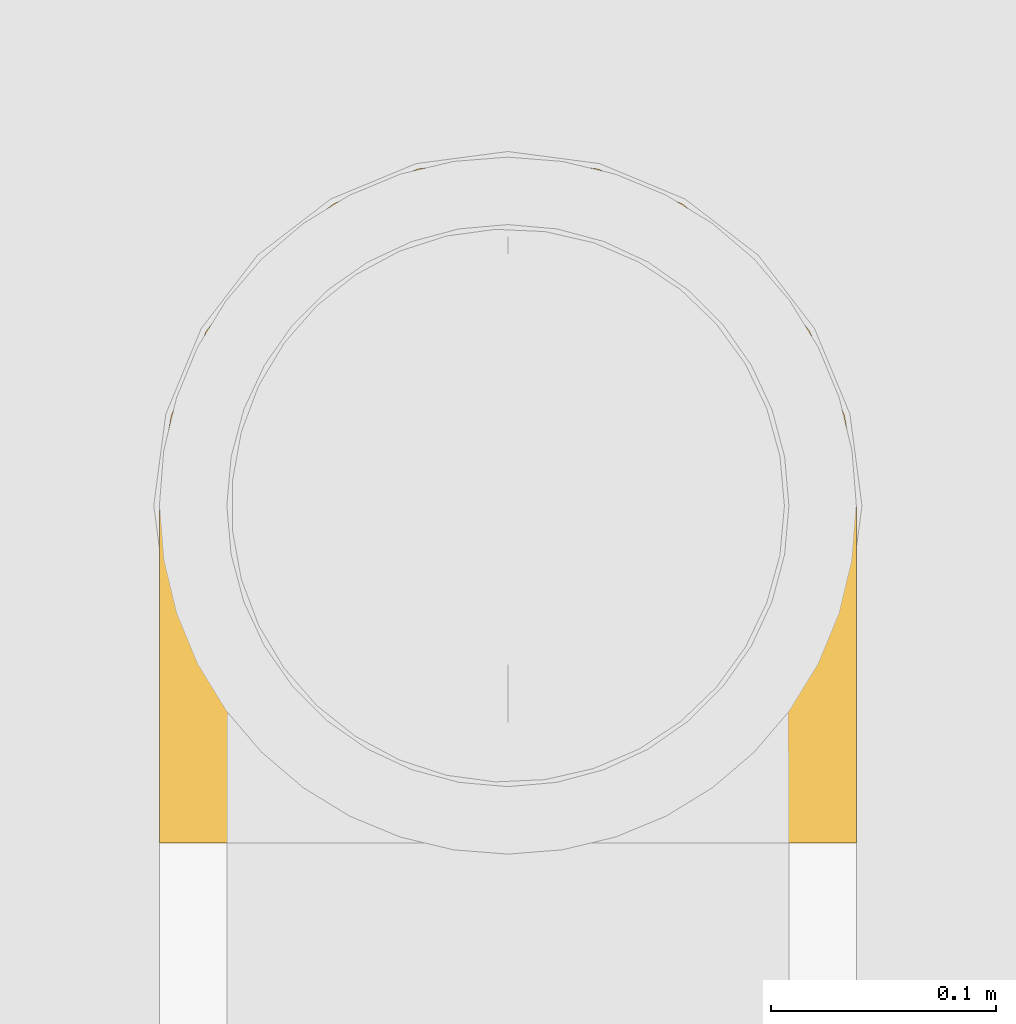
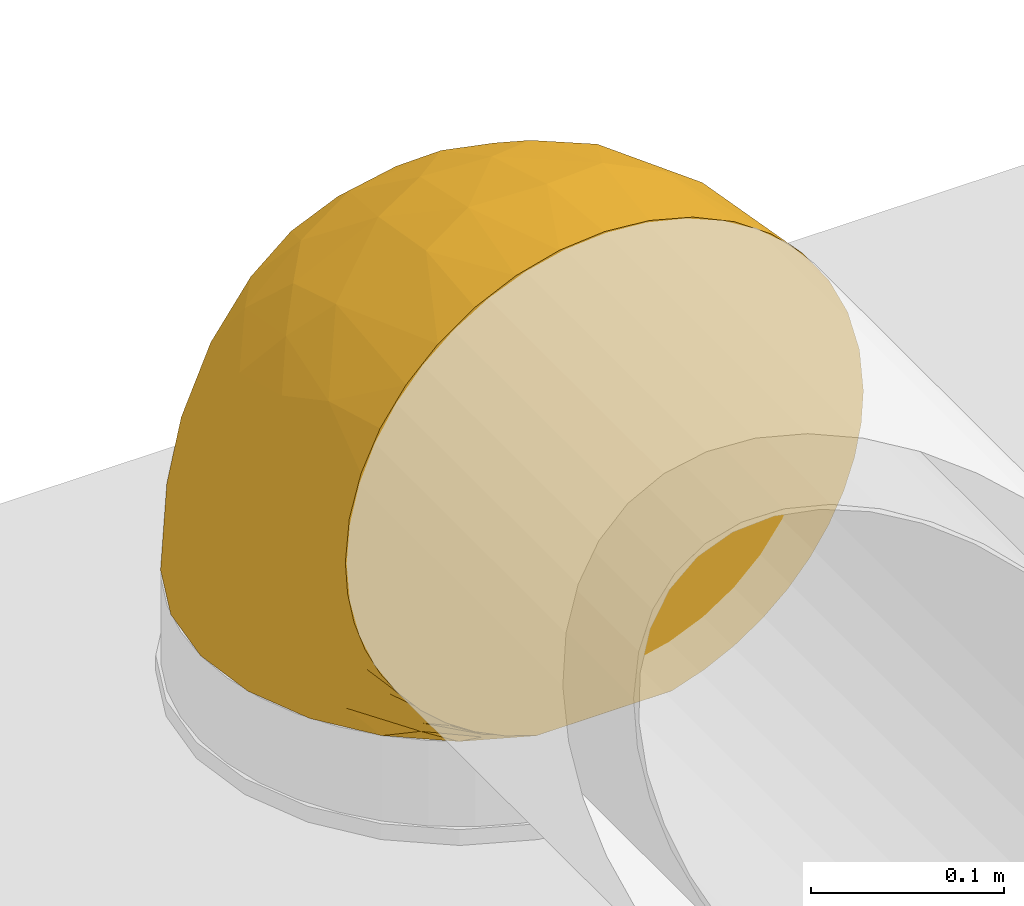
# One storey, part 2 of 36: 1 covering.
"""IFC2X3 building model written with IfcOpenShell, lengths in millimetres."""

from ifc_helpers import new_model, entity, si_unit, converted_unit, derived_unit, direction, frame, origin_with_axes, place, context, subcontext, project, spatial, open_shell, surface_model, source, transform, mapped, element, save


model = new_model("IFC2X3")

# Units and contexts
model_context = context("Model", 3, precision=0.01, world=frame((0.0, 4.29681676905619e-09, 0.0)), true_north=direction((4.01073788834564e-13, 1.0)))
plan_context = context("Plan", 3, precision=0.01, world=frame((0.0, 4.29681676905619e-09, 0.0)), true_north=direction((4.01073788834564e-13, 1.0)))
body_context = subcontext(model_context, "Body", "Model", "MODEL_VIEW")
ifc_project = project(units=[converted_unit("PLANEANGLEUNIT", "DEGREE", entity("IfcPositiveLengthMeasure", 0.0174532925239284), si_unit("PLANEANGLEUNIT", "RADIAN"), dimensions=[0, 0, 0, 0, 0, 0, 0]), si_unit("AREAUNIT", "SQUARE_METRE"), si_unit("LENGTHUNIT", "METRE", prefix="MILLI"), si_unit("MASSUNIT", "GRAM", prefix="KILO"), si_unit("POWERUNIT", "WATT"), si_unit("PRESSUREUNIT", "PASCAL"), si_unit("FORCEUNIT", "NEWTON", prefix="KILO"), si_unit("ELECTRICCURRENTUNIT", "AMPERE"), si_unit("THERMODYNAMICTEMPERATUREUNIT", "DEGREE_CELSIUS"), si_unit("TIMEUNIT", "SECOND"), si_unit("VOLUMEUNIT", "CUBIC_METRE"), derived_unit("LINEARVELOCITYUNIT", [(si_unit("LENGTHUNIT", "METRE"), 1), (si_unit("TIMEUNIT", "SECOND"), -1)]), derived_unit("VOLUMETRICFLOWRATEUNIT", [(si_unit("VOLUMEUNIT", "CUBIC_METRE"), 1), (si_unit("TIMEUNIT", "SECOND"), -1)]), derived_unit("THERMALTRANSMITTANCEUNIT", [(si_unit("POWERUNIT", "WATT"), 1), (si_unit("THERMODYNAMICTEMPERATUREUNIT", "KELVIN"), -1), (si_unit("AREAUNIT", "SQUARE_METRE"), -1)])], contexts=[model_context, plan_context])

# Site, building, storey
site_placement = place(None, frame((0.0, -4.29681676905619e-09, 0.0), z_axis=(0.0, 0.0, 1.0), x_axis=(1.0, 0.0, 0.0)))
site = spatial("IfcSite", under=ifc_project, at=site_placement, CompositionType="ELEMENT")
building_placement = place(site_placement, frame((0.0, 4.29681676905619e-09, 0.0), z_axis=(0.0, 0.0, 1.0), x_axis=(1.0, 0.0, 0.0)))
building = spatial("IfcBuilding", under=site, at=building_placement, Name="mc-building", CompositionType="ELEMENT")
storey_placement = place(building_placement, frame((0.0, 0.0, 204000.0), z_axis=(0.0, 0.0, 1.0), x_axis=(1.0, 0.0, 0.0)))
storey = spatial("IfcBuildingStorey", under=building, at=storey_placement, Name="Nivå D", CompositionType="ELEMENT", Elevation=204000.0)

# Covering
shared_shape = source(origin_with_axes(), body_context, "Body", "SurfaceModel", [
    surface_model("IfcShellBasedSurfaceModel", [(118.73529, 150.0, 99.63399), (134.23266, 150.0, 77.50222), (145.65278, 150.0, 53.01196), (-59.19195, 150.0, 143.25262), (-94.17833, 150.0, 123.10745), (-77.34385, 150.0, 134.32397), (-20.18853, 150.0, 153.67961), (0.0, 150.0, 155.0), (-40.0315, 150.0, 149.74138), (-109.40886, 150.0, 109.79391), (-122.77614, 150.0, 94.60984), (152.6459, 150.0, 26.91148), (155.0, 150.0, 0.0), (99.63399, 150.0, -118.73529), (77.50222, 150.0, -134.23266), (53.01196, 150.0, -145.65278), (26.91148, 150.0, -152.6459), (0.0, 150.0, -155.0), (-94.1823, 150.0, -123.1044), (-109.41224, 150.0, -109.79054), (-122.77862, 150.0, -94.6066), (-149.602, 150.0, -40.54927), (-134.05394, 150.0, -77.81094), (-143.0461, 150.0, -59.68929), (-20.18986, 150.0, -153.67945), (-40.03434, 150.0, -149.74061), (-150.0, 149.602, -40.54927), (-150.0, 134.05448, -77.80999), (-150.0, 109.41143, -109.79135), (-150.0, 109.41143, 109.79135), (-150.0, 40.03045, 149.74166), (-150.0, 77.34484, 134.3234), (-150.0, 149.602, 40.54927), (-149.71857, 149.71857, 40.54927), (-149.71857, 149.71857, -40.54927), (-149.602, 150.0, 40.54927), (-122.0938, 63.58605, -143.25267), (-150.0, 77.34484, -134.3234), (-136.20073, 95.91287, -123.10592), (-137.47708, 125.83029, -94.60648), (-147.1653, 140.01208, -67.31958), (-145.05359, 140.9526, -67.17187), (-149.94253, 149.6258, -40.54927), (-80.29961, 51.39737, -152.21515), (-103.44954, 37.61727, -152.38384), (-94.99005, 78.30964, -143.06822), (-55.95077, 115.20609, -146.80879), (-89.48176, 101.66012, -136.97501), (-88.82525, 121.39611, -131.24017), (-111.53741, 121.30822, -116.69619), (-144.09591, 123.4267, -94.60648), (-150.0, 40.03045, -149.74166), (-127.29873, 29.80052, -152.50922), (-150.0, 0.0, -155.0), (-75.0, 20.09619, -155.0), (-118.1798, 139.03454, -102.41686), (-118.92581, 90.55276, -130.95454), (-59.19573, 150.0, -143.25106), (-70.00847, 133.96789, -139.08278), (-77.34799, 150.0, -134.32159), (-61.94591, 82.43371, -150.01067), (-20.09619, 75.0, -155.0), (-43.93398, 43.93398, -155.0), (-149.68409, 149.80181, -40.54927), (-149.6496, 149.88506, -40.54927), (-132.32871, 142.03789, -83.45054), (-31.66904, 101.56483, -153.41062), (-136.84157, 146.59806, -73.60439), (-96.60055, 136.76109, -122.48696), (-32.51292, 126.45276, -152.03415), (-5.11113, 111.17714, -155.0), (-111.17714, 5.11113, -155.0), (-137.03744, 135.04293, -84.08924), (-122.88609, 116.1525, -112.49311), (-136.26737, 140.44841, -79.14233), (-131.29438, 108.39556, -114.58186), (-106.70969, 100.42277, -130.1473), (-149.85928, 149.66028, -40.54927), (-149.78892, 149.68943, -40.54927), (-81.04119, -16.4813, -152.02986), (-116.18378, -26.02376, -152.21653), (131.78325, 33.28155, 0.0), (141.04553, 78.41765, -40.11476), (149.13951, 90.49746, 0.0), (-67.24735, -127.11264, -68.1691), (-150.0, -149.7185, -40.11695), (-150.0, -134.23394, -77.5), (114.14712, 29.15563, -65.5067), (71.60067, -25.07998, -80.56368), (73.38458, 8.67006, -104.65045), (19.44892, -103.59823, 0.0), (0.95675, -110.7753, -33.58994), (49.11602, -77.65106, -28.03421), (-55.94132, -75.53005, -122.96977), (-107.24387, -90.58835, -122.96977), (-95.66121, -52.13969, -143.20133), (-0.20771, 35.06033, -150.06284), (-51.31739, 1.48198, -152.392), (-150.0, -77.5, -134.23394), (-150.0, -109.60155, -109.60155), (-54.64138, -41.60716, -141.15892), (152.64582, 150.0, -26.91195), (66.67312, 101.83568, -137.28255), (45.31502, 58.92276, -140.47743), (34.46684, 104.00581, -149.71919), (24.23902, -68.16086, -85.62716), (34.45369, -32.67366, -109.60181), (24.66713, 4.62395, -134.37766), (63.48014, 35.8833, -124.69436), (-79.13657, -113.61121, -94.35802), (-150.0, -155.0, 0.0), (-90.49746, -149.13951, 0.0), (37.641, -76.72836, -56.58032), (80.98557, -39.56495, -43.35542), (-33.28155, -131.78325, 0.0), (-62.91134, -137.09287, -39.00803), (-13.29658, -105.75414, -66.52793), (16.94312, 69.59641, -150.92769), (-24.95593, -12.96061, -144.75851), (118.73482, 150.0, -99.63454), (134.23249, 150.0, -77.50252), (130.97075, 88.8354, -71.44703), (94.07091, 61.55667, -109.60181), (-18.16534, -43.73064, -130.0498), (-9.76446, -69.1649, -109.00911), (65.66757, -65.66757, 0.0), (103.59823, -19.44892, 0.0), (145.65269, 150.0, -53.0122), (120.05296, 16.01657, -32.92188), (-150.0, -40.11695, -149.7185), (26.91195, 150.0, 152.64582), (-5.11113, 111.17714, 155.0), (34.46716, 104.0056, 149.7191), (-150.0, -149.7185, 40.11695), (-62.91133, -137.09289, 39.0079), (66.67351, 101.83536, 137.28232), (99.63454, 150.0, 118.73482), (77.50252, 150.0, 134.23249), (-4.6351, -113.35095, 35.80975), (-0.2077, 35.06033, 150.06284), (-20.09619, 75.0, 155.0), (-43.93398, 43.93398, 155.0), (36.16335, -79.7298, 52.90958), (-13.29652, -105.75426, 66.52764), (130.97108, 88.83573, 71.44654), (94.07163, 61.55714, 109.6013), (-92.39124, -133.99727, 66.97895), (80.98555, -39.56494, 43.3555), (141.04569, 78.41789, 40.11439), (-150.0, 0.0, 155.0), (-150.0, -40.11695, 149.7185), (-116.18307, -26.02416, 152.21643), (-42.25815, 9.58809, 152.63287), (-81.59831, -114.26067, 94.35802), (-106.87422, -81.84174, 129.07425), (-68.59042, -52.86926, 138.99578), (-109.18329, -55.29772, 143.20132), (-150.0, -77.5, 134.23394), (24.85479, 7.19063, 135.22219), (45.31512, 58.92233, 140.4773), (71.60146, -25.07914, 80.56352), (73.38472, 8.67039, 104.65052), (34.45406, -32.67402, 109.6013), (-62.50502, -78.15668, 122.96977), (-22.5047, -16.15511, 143.15239), (-77.22963, -25.6832, 149.70747), (114.14749, 29.15614, 65.50643), (63.48119, 35.88453, 124.69411), (120.0532, 16.01702, 32.92178), (-12.32249, -52.34142, 122.67654), (-150.0, -109.60155, 109.60155), (-19.74165, -84.78439, 99.91659), (26.84205, -68.68367, 82.46936), (53.0122, 150.0, 145.65269), (-75.0, 20.09619, 155.0), (-111.17714, 5.11113, 155.0), (16.94342, 69.59623, 150.92761), (-150.0, -134.23394, 77.5), (-126.9186, 42.25363, 149.80065), (-133.44376, 70.7605, 138.77026), (-80.71722, 115.52173, 136.9396), (-88.44442, 132.27863, 128.99063), (-102.56993, 126.66501, 120.78383), (-129.14296, 145.62289, 86.39583), (-134.05246, 150.0, 77.81348), (-78.97145, 57.43379, 151.37565), (-102.00586, 34.13191, 153.03779), (-149.6496, 149.88506, 40.54927), (-149.68409, 149.80181, 40.54927), (-138.49277, 144.51348, 72.02054), (-31.66714, 101.56927, 153.41064), (-62.73488, 83.03912, 149.74853), (-145.07011, 140.96969, 67.1242), (-149.85928, 149.66028, 40.54927), (-147.18207, 140.07114, 67.19209), (-79.93189, 99.563, 141.32072), (-55.94657, 115.20788, 146.80992), (-127.65846, 131.00429, 97.27617), (-138.2493, 135.6572, 82.12014), (-126.96761, 121.12603, 106.02507), (-150.0, 134.05448, 77.80999), (-143.89541, 123.47205, 94.60648), (-137.14121, 126.0073, 94.60648), (-133.70052, 96.61307, 123.10592), (-141.16662, 142.91589, 69.23674), (-118.67586, 137.68084, 102.42018), (-32.51047, 126.45429, 152.03457), (-149.94253, 149.6258, 40.54927), (-112.02924, 142.68426, 107.84446), (-56.66755, 133.19502, 144.85039), (-143.04559, 150.0, 59.69053), (-141.71917, 147.96851, 63.32625), (-149.6258, 149.94253, 40.54927), (-127.7393, 109.40375, 115.20024), (-112.88997, 97.15414, 129.33464), (-98.3972, 112.04888, 128.99063), (-89.95823, 85.78628, 142.02115), (-113.50407, 61.89104, 145.05307), (-103.07319, 76.35019, 141.76527), (-149.78892, 149.68943, 40.54927)], [open_shell([[[0, 1, 2]], [[3, 4, 5]], [[6, 7, 8]], [[9, 4, 10]], [[2, 11, 12]], [[13, 14, 15]], [[15, 16, 17]], [[18, 19, 20]], [[21, 22, 23]], [[22, 21, 20]], [[18, 20, 21]], [[17, 24, 25]], [[26, 27, 28]], [[29, 30, 31]], [[26, 32, 33]], [[34, 26, 33]], [[35, 21, 33]], [[34, 33, 21]], [[36, 37, 38]], [[39, 40, 41]], [[27, 26, 42]], [[43, 44, 45]], [[37, 28, 38]], [[46, 47, 48]], [[47, 49, 48]], [[50, 28, 27]], [[51, 52, 53]], [[50, 38, 28]], [[52, 36, 44]], [[44, 43, 54]], [[20, 19, 55]], [[51, 37, 36]], [[56, 36, 38]], [[57, 58, 59]], [[60, 61, 62]], [[63, 64, 65]], [[23, 64, 21]], [[66, 60, 46]], [[67, 23, 22]], [[46, 60, 47]], [[58, 48, 68]], [[18, 68, 19]], [[59, 58, 68]], [[66, 69, 70]], [[24, 70, 69]], [[62, 43, 60]], [[48, 58, 46]], [[25, 58, 57]], [[69, 66, 46]], [[58, 25, 69]], [[71, 44, 54]], [[24, 69, 25]], [[24, 17, 70]], [[50, 40, 39]], [[20, 67, 22]], [[69, 46, 58]], [[39, 41, 72]], [[48, 55, 68]], [[72, 73, 39]], [[20, 55, 67]], [[55, 48, 49]], [[65, 49, 74]], [[73, 56, 75]], [[49, 73, 72]], [[64, 67, 65]], [[70, 61, 66]], [[60, 66, 61]], [[60, 45, 47]], [[76, 47, 45]], [[42, 40, 27]], [[50, 39, 75]], [[40, 42, 77]], [[40, 77, 41]], [[27, 40, 50]], [[72, 78, 34]], [[72, 34, 74]], [[41, 78, 72]], [[49, 72, 74]], [[76, 49, 47]], [[56, 45, 36]], [[52, 44, 71]], [[45, 44, 36]], [[60, 43, 45]], [[62, 54, 43]], [[41, 77, 78]], [[75, 56, 38]], [[76, 56, 73]], [[53, 52, 71]], [[36, 52, 51]], [[19, 68, 55]], [[59, 68, 18]], [[74, 34, 63]], [[23, 67, 64]], [[65, 67, 55]], [[56, 76, 45]], [[49, 76, 73]], [[50, 75, 38]], [[73, 75, 39]], [[49, 65, 55]], [[63, 65, 74]], [[54, 79, 71]], [[80, 53, 71]], [[81, 82, 83]], [[84, 85, 86]], [[87, 88, 89]], [[90, 91, 92]], [[93, 94, 95]], [[62, 96, 97]], [[98, 94, 99]], [[79, 97, 100]], [[101, 83, 82]], [[102, 103, 104]], [[88, 105, 106]], [[107, 103, 108]], [[86, 109, 84]], [[110, 85, 111]], [[92, 112, 113]], [[86, 99, 109]], [[114, 111, 115]], [[112, 91, 116]], [[103, 96, 117]], [[113, 88, 87]], [[114, 115, 91]], [[107, 118, 96]], [[103, 117, 104]], [[115, 84, 116]], [[119, 120, 121]], [[111, 85, 115]], [[16, 15, 104]], [[122, 13, 119]], [[106, 123, 107]], [[15, 14, 102]], [[70, 16, 104]], [[15, 102, 104]], [[99, 94, 109]], [[16, 70, 17]], [[109, 93, 124]], [[123, 100, 118]], [[125, 113, 126]], [[82, 121, 127]], [[96, 62, 61]], [[128, 82, 81]], [[82, 127, 101]], [[98, 129, 95]], [[122, 119, 121]], [[102, 13, 122]], [[101, 12, 83]], [[128, 126, 113]], [[124, 106, 105]], [[87, 121, 82]], [[82, 128, 87]], [[79, 80, 71]], [[97, 96, 118]], [[70, 104, 117]], [[89, 108, 122]], [[107, 96, 103]], [[123, 106, 124]], [[97, 79, 54]], [[80, 95, 129]], [[105, 112, 116]], [[89, 88, 106]], [[112, 88, 113]], [[116, 109, 124]], [[124, 105, 116]], [[123, 124, 93]], [[100, 93, 95]], [[107, 123, 118]], [[93, 100, 123]], [[79, 100, 95]], [[88, 112, 105]], [[113, 125, 92]], [[114, 91, 90]], [[115, 116, 91]], [[90, 92, 125]], [[91, 112, 92]], [[126, 128, 81]], [[113, 87, 128]], [[95, 80, 79]], [[53, 80, 129]], [[13, 102, 14]], [[108, 102, 122]], [[122, 121, 87]], [[127, 121, 120]], [[95, 94, 98]], [[109, 94, 93]], [[108, 106, 107]], [[87, 89, 122]], [[108, 89, 106]], [[102, 108, 103]], [[62, 97, 54]], [[100, 97, 118]], [[96, 61, 117]], [[70, 117, 61]], [[84, 115, 85]], [[109, 116, 84]], [[130, 131, 132]], [[133, 110, 111]], [[114, 134, 111]], [[135, 136, 137]], [[114, 90, 138]], [[139, 140, 141]], [[142, 143, 138]], [[144, 0, 145]], [[146, 133, 134]], [[125, 147, 142]], [[83, 11, 148]], [[147, 125, 126]], [[149, 150, 151]], [[152, 139, 141]], [[143, 153, 146]], [[154, 155, 156]], [[156, 150, 157]], [[158, 159, 139]], [[160, 142, 147]], [[160, 161, 162]], [[154, 153, 163]], [[164, 152, 165]], [[160, 147, 166]], [[162, 167, 158]], [[168, 126, 81]], [[169, 158, 164]], [[148, 81, 83]], [[170, 153, 154]], [[169, 163, 171]], [[11, 2, 148]], [[172, 142, 160]], [[12, 11, 83]], [[135, 137, 173]], [[166, 148, 144]], [[174, 175, 165]], [[2, 1, 144]], [[155, 165, 156]], [[145, 0, 136]], [[159, 132, 176]], [[141, 174, 152]], [[176, 131, 140]], [[159, 176, 139]], [[132, 135, 173]], [[145, 166, 144]], [[173, 130, 132]], [[171, 163, 153]], [[7, 131, 130]], [[170, 177, 153]], [[148, 166, 168]], [[132, 159, 135]], [[156, 151, 150]], [[133, 111, 134]], [[146, 153, 177]], [[148, 168, 81]], [[171, 153, 143]], [[158, 139, 164]], [[162, 161, 167]], [[154, 156, 157]], [[151, 165, 175]], [[172, 171, 143]], [[169, 171, 162]], [[158, 169, 162]], [[155, 169, 164]], [[161, 166, 145]], [[162, 171, 172]], [[166, 147, 168]], [[126, 168, 147]], [[172, 143, 142]], [[162, 172, 160]], [[138, 143, 134]], [[125, 142, 90]], [[114, 138, 134]], [[90, 142, 138]], [[2, 144, 148]], [[144, 1, 0]], [[167, 135, 159]], [[136, 135, 145]], [[165, 151, 156]], [[149, 151, 175]], [[165, 152, 174]], [[139, 152, 164]], [[169, 155, 163]], [[164, 165, 155]], [[166, 161, 160]], [[161, 145, 167]], [[135, 167, 145]], [[158, 167, 159]], [[170, 154, 157]], [[155, 154, 163]], [[131, 176, 132]], [[140, 139, 176]], [[133, 146, 177]], [[143, 146, 134]], [[149, 175, 178]], [[30, 179, 31]], [[180, 181, 182]], [[183, 10, 184]], [[185, 174, 141]], [[174, 186, 175]], [[187, 188, 189]], [[190, 191, 140]], [[192, 193, 194]], [[195, 196, 180]], [[197, 198, 199]], [[200, 29, 201]], [[175, 186, 178]], [[192, 202, 198]], [[178, 179, 30]], [[203, 29, 31]], [[197, 204, 198]], [[205, 183, 189]], [[206, 190, 131]], [[200, 207, 32]], [[131, 7, 6]], [[182, 181, 205]], [[208, 10, 183]], [[209, 8, 3]], [[193, 207, 194]], [[184, 210, 211]], [[4, 181, 5]], [[8, 209, 206]], [[191, 141, 140]], [[196, 206, 209]], [[210, 35, 212]], [[208, 4, 9]], [[211, 189, 183]], [[208, 9, 10]], [[209, 5, 181]], [[199, 213, 214]], [[185, 141, 191]], [[215, 182, 197]], [[211, 210, 212]], [[208, 183, 205]], [[190, 206, 196]], [[8, 206, 6]], [[131, 6, 206]], [[197, 205, 189]], [[216, 185, 191]], [[203, 217, 218]], [[203, 213, 201]], [[216, 215, 214]], [[186, 185, 217]], [[218, 185, 216]], [[215, 197, 199]], [[203, 201, 29]], [[194, 200, 201]], [[191, 190, 196]], [[140, 131, 190]], [[202, 192, 194]], [[200, 194, 207]], [[202, 194, 201]], [[202, 199, 198]], [[198, 219, 192]], [[204, 197, 189]], [[205, 181, 208]], [[189, 188, 204]], [[33, 198, 204]], [[213, 199, 202]], [[33, 204, 188]], [[215, 199, 214]], [[201, 213, 202]], [[203, 214, 213]], [[219, 198, 33]], [[219, 193, 192]], [[4, 208, 181]], [[5, 209, 3]], [[181, 196, 209]], [[216, 191, 195]], [[218, 216, 214]], [[185, 186, 174]], [[178, 186, 217]], [[178, 217, 179]], [[178, 30, 149]], [[217, 203, 179]], [[203, 31, 179]], [[203, 218, 214]], [[185, 218, 217]], [[197, 182, 205]], [[180, 182, 215]], [[195, 180, 215]], [[181, 180, 196]], [[216, 195, 215]], [[196, 195, 191]], [[211, 212, 187]], [[189, 211, 187]], [[211, 183, 184]], [[200, 30, 29]], [[150, 170, 157]], [[173, 137, 130]], [[7, 130, 137]], [[136, 0, 137]], [[120, 101, 127]], [[13, 120, 119]], [[18, 57, 59]], [[18, 21, 57]], [[101, 2, 12]], [[32, 37, 149]], [[170, 133, 177]], [[85, 110, 133]], [[4, 7, 21]], [[137, 21, 7]], [[2, 137, 0]], [[137, 2, 101]], [[8, 7, 4]], [[4, 3, 8]], [[4, 184, 10]], [[210, 184, 4]], [[210, 4, 21]], [[210, 21, 35]], [[21, 137, 101]], [[120, 21, 101]], [[15, 21, 120]], [[15, 120, 13]], [[15, 17, 25]], [[25, 57, 21]], [[15, 25, 21]], [[32, 28, 37]], [[28, 32, 26]], [[85, 149, 37]], [[149, 200, 32]], [[30, 200, 149]], [[37, 51, 53]], [[86, 53, 129]], [[99, 129, 98]], [[86, 85, 53]], [[86, 129, 99]], [[170, 149, 85]], [[149, 170, 150]], [[85, 133, 170]], [[85, 37, 53]]])]),
])
covering_placement = place(storey_placement, frame((514577.5, 420465.19145, 2614.0), z_axis=(1.0, 0.0, 0.0), x_axis=(0.0, 0.0, 1.0)))
element("IfcCovering", 1, at=covering_placement, inside=storey, Name="EI60-30", PredefinedType="INSULATION", context=body_context, shape_type="MappedRepresentation", body=[
    mapped(shared_shape, transform((0.0, 0.0, 0.0), scale=1.0)),
])

save(model, "model.ifc")
